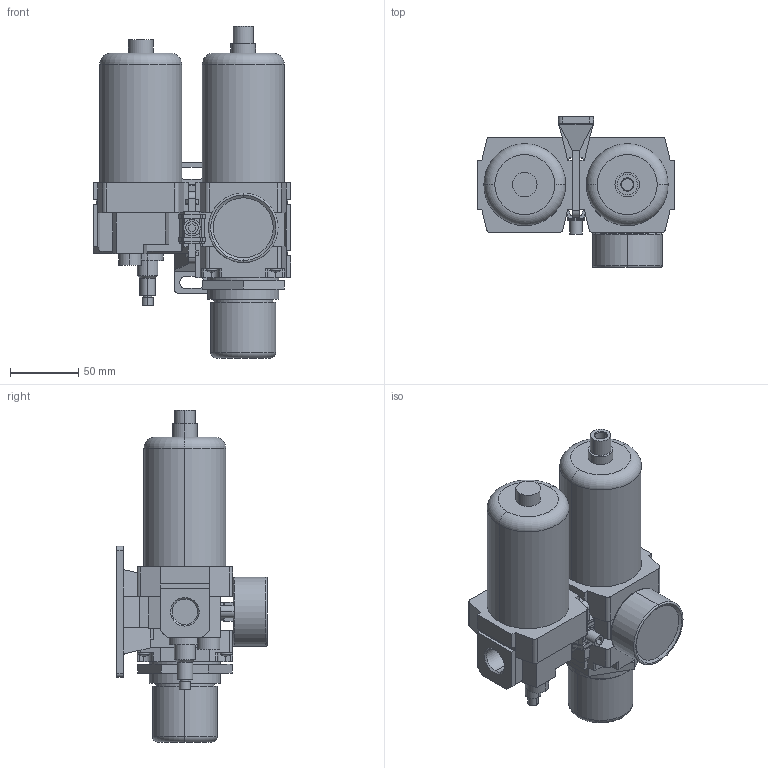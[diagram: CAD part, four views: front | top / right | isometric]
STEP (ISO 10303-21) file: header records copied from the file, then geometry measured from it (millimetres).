
FILE_DESCRIPTION (( 'STEP AP203' ), '1' );
FILE_NAME ('FRL400-04M-D.STEP', '2021-06-30T14:56:40', ( '' ), ( '' ), 'SwSTEP 2.0', 'SolidWorks 2019', '' );
FILE_SCHEMA (( 'CONFIG_CONTROL_DESIGN' ));
Length unit declared in the file: millimetre
Products named in the file (4): ST-400; L400-04; FRL400-04M-D; FR400-04M-D
Assembly tree (3 placements, depth 2):
  FRL400-04M-D
    FR400-04M-D
    ST-400
    L400-04
Bounding box: 145.2 x 110.5 x 243.5 mm (x, y, z)
Volume: 1195422.6 mm3; surface area: 150861.1 mm2
Topology: 13 solids, 13 shells, 568 faces, 1404 edges, 910 vertices
Faces by surface type: plane 364, cylinder 144, cone 42, torus 10, sphere 8
Entity records: 17274 total; most frequent: CARTESIAN_POINT 3018, DIRECTION 2960, ORIENTED_EDGE 2808, EDGE_CURVE 1404, AXIS2_PLACEMENT_3D 996, LINE 968, VECTOR 968, VERTEX_POINT 910
